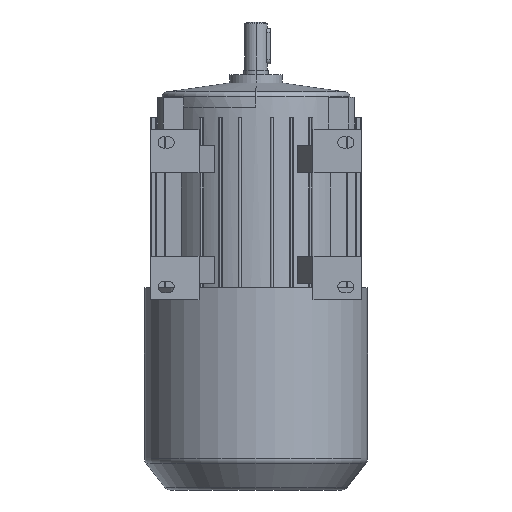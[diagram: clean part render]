
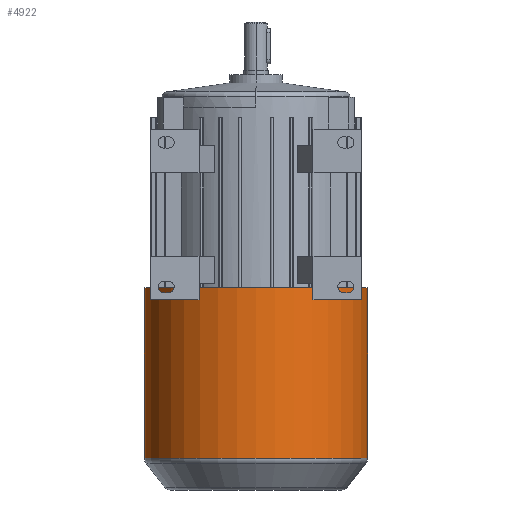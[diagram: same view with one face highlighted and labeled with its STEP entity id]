
A CAD part, front view. The second image highlights one B-rep face of the part: STEP entity #4922.
In plain terms, the highlighted cylindrical face has radius 69.5 mm (diameter 139 mm), a partial arc.
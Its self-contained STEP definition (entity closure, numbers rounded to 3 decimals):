
#291=CARTESIAN_POINT('',(0.,0.,-112.5));
#292=DIRECTION('',(0.,0.,-1.));
#293=DIRECTION('',(1.,0.,0.));
#294=AXIS2_PLACEMENT_3D('',#291,#292,#293);
#536=DIRECTION('',(0.,0.,1.));
#537=VECTOR('',#536,106.359);
#538=CARTESIAN_POINT('',(69.5,0.,-218.859));
#539=LINE('',#538,#537);
#540=DIRECTION('',(0.,0.,1.));
#541=VECTOR('',#540,106.359);
#542=CARTESIAN_POINT('',(-69.5,0.,-218.859));
#543=LINE('',#542,#541);
#559=CARTESIAN_POINT('',(0.,0.,-218.859));
#560=DIRECTION('',(0.,0.,1.));
#561=DIRECTION('',(-1.,0.,0.));
#562=AXIS2_PLACEMENT_3D('',#559,#560,#561);
#3950=CARTESIAN_POINT('',(69.5,0.,-112.5));
#3951=CARTESIAN_POINT('',(-69.5,0.,-112.5));
#3952=VERTEX_POINT('',#3950);
#3953=VERTEX_POINT('',#3951);
#3954=CARTESIAN_POINT('',(-69.5,0.,-218.859));
#3955=CARTESIAN_POINT('',(69.5,0.,-218.859));
#3956=VERTEX_POINT('',#3954);
#3957=VERTEX_POINT('',#3955);
#4911=CARTESIAN_POINT('',(0.,0.,-106.2));
#4912=DIRECTION('',(0.,0.,-1.));
#4913=DIRECTION('',(-1.,0.,0.));
#4914=AXIS2_PLACEMENT_3D('',#4911,#4912,#4913);
#4915=CYLINDRICAL_SURFACE('',#4914,69.5);
#4916=ORIENTED_EDGE('',*,*,#4902,.F.);
#4917=ORIENTED_EDGE('',*,*,#4877,.T.);
#4918=ORIENTED_EDGE('',*,*,#4678,.F.);
#4919=ORIENTED_EDGE('',*,*,#4874,.F.);
#4920=EDGE_LOOP('',(#4916,#4917,#4918,#4919));
#4921=FACE_OUTER_BOUND('',#4920,.F.);
#4922=ADVANCED_FACE('',(#4921),#4915,.T.);
#295=CIRCLE('',#294,69.5);
#563=CIRCLE('',#562,69.5);
#4678=EDGE_CURVE('',#3952,#3953,#295,.T.);
#4874=EDGE_CURVE('',#3957,#3952,#539,.T.);
#4877=EDGE_CURVE('',#3956,#3953,#543,.T.);
#4902=EDGE_CURVE('',#3956,#3957,#563,.T.);
